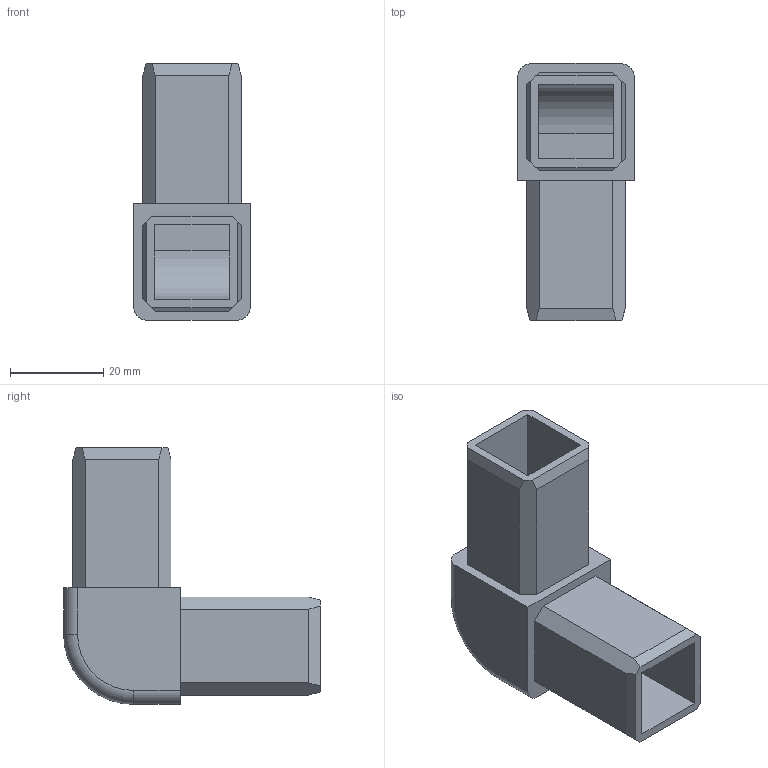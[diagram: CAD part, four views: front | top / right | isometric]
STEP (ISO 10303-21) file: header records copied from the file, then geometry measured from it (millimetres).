
FILE_DESCRIPTION (( 'STEP AP214' ), '1' );
FILE_NAME ('L15807.step', '2024-12-03T16:18:55', ( '' ), ( '' ), 'SwSTEP 2.0', 'SolidWorks 2023', '' );
FILE_SCHEMA (( 'AUTOMOTIVE_DESIGN' ));
Length unit declared in the file: millimetre
Products named in the file (1): L15807
Bounding box: 25 x 55 x 55 mm (x, y, z)
Volume: 18412.2 mm3; surface area: 12771.4 mm2
Topology: 1 solids, 1 shells, 46 faces, 122 edges, 80 vertices
Faces by surface type: plane 38, cylinder 6, torus 2
Entity records: 1435 total; most frequent: CARTESIAN_POINT 249, ORIENTED_EDGE 244, DIRECTION 230, EDGE_CURVE 122, VECTOR 108, LINE 108, VERTEX_POINT 80, AXIS2_PLACEMENT_3D 61
